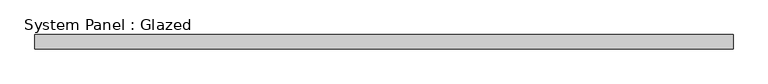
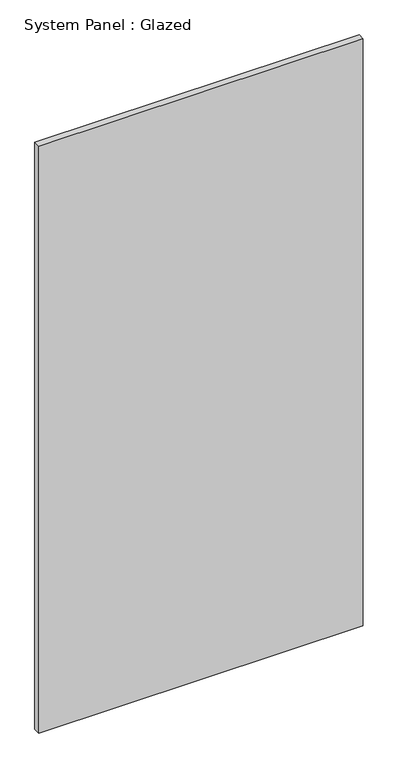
"""IFC4 building model written with IfcOpenShell, lengths in millimetres: plate geometry, System Panel : Glazed."""

from ifc_helpers import new_model, si_unit, origin, origin_with_axes, place, context, project, spatial, polyline, outline, extrude, source, transform, mapped, element, save


def system_panel_glazed_e39aac95(model_context):
    return source(origin(), model_context, "Body", "SweptSolid", [
        extrude(outline(polyline([(618.17875, 24.5), (-618.17875, 24.5), (-618.17875, 49.5), (618.17875, 49.5), (618.17875, 24.5)])), origin_with_axes(), (0.0, 0.0, 1.0), 2363.4),
    ])


if __name__ == "__main__":
    model = new_model("IFC4")
    model_context = context("Model", 3, world=origin())
    ifc_project = project(units=[si_unit("LENGTHUNIT", "METRE", prefix="MILLI")], contexts=[model_context])
    site = spatial("IfcSite", under=ifc_project)
    building = spatial("IfcBuilding", under=site)
    placement = place(None, origin())
    system_panel_glazed_shape = system_panel_glazed_e39aac95(model_context)
    element("IfcPlate", 1, ObjectType="System Panel : Glazed", at=placement, inside=building, context=model_context, shape_type="MappedRepresentation", body=[
        mapped(system_panel_glazed_shape, transform((0.0, 0.0, 0.0), x_axis=(1.0, 0.0, 0.0), y_axis=(0.0, 1.0, 0.0), z_axis=(0.0, 0.0, 1.0))),
    ])
    save(model, "model.ifc")
